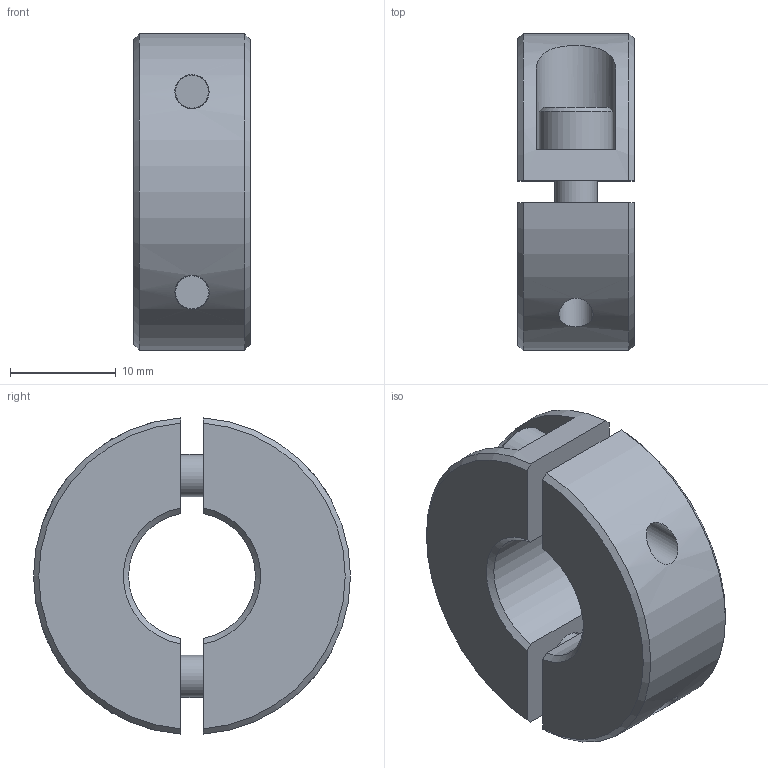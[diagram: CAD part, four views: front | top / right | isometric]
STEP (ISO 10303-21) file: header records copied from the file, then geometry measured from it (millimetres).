
FILE_DESCRIPTION(/* description */ ('STEP AP214'),/* implementation_level */ '2;1');
FILE_NAME(/* name */ 'Split Shaft Collar_ Aluminum GN 707.2-30-B12-AL',/* time_stamp */ '2024-06-10T15:26:23+02:00',/* author */ ('License CC BY-ND 4.0'),/* organization */ ('CADENAS'),/* preprocessor_version */ 'ST-DEVELOPER v19.3',/* originating_system */ 'PARTsolutions',/* authorisation */ ' ');
FILE_SCHEMA (('AUTOMOTIVE_DESIGN {1 0 10303 214 3 1 1}'));
Length unit declared in the file: millimetre
Products named in the file (1): Split Shaft Collar, Aluminum GN 707.2-30-B12-AL
Bounding box: 11 x 30 x 29.93 mm (x, y, z)
Volume: 5571.4 mm3; surface area: 3504.3 mm2
Topology: 1 solids, 1 shells, 72 faces, 168 edges, 108 vertices
Faces by surface type: plane 44, cylinder 14, cone 14
Full cylindrical faces by diameter (mm): 3.242 x2, 4 x2, 4.3 x2, 7 x2
Entity records: 2506 total; most frequent: CARTESIAN_POINT 421, DIRECTION 324, ORIENTED_EDGE 292, EDGE_CURVE 146, AXIS2_PLACEMENT_3D 125, VERTEX_POINT 102, FACE_BOUND 100, EDGE_LOOP 98
